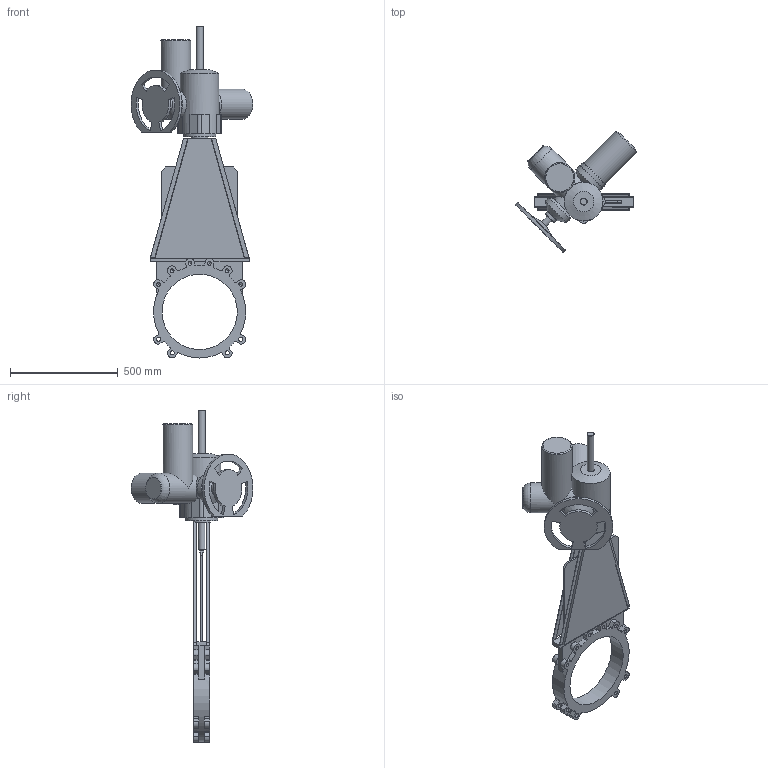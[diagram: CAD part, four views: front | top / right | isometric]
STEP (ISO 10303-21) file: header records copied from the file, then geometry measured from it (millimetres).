
FILE_DESCRIPTION(('STEP AP203'), '1');
FILE_NAME('K51GVA_DN350+MT903.A 30', '', ('UNSPECIFIED'), ('UNSPECIFIED'), 'ASCON STEP Converter 1.6', 'ASCON Math Kernel', '');
FILE_SCHEMA(('CONFIG_CONTROL_DESIGN'));
Length unit declared in the file: millimetre
Bounding box: 565.84 x 565.84 x 1543.5 mm (x, y, z)
Volume: 28856306.8 mm3; surface area: 2271555.4 mm2
Topology: 1 solids, 1 shells, 360 faces, 1000 edges, 648 vertices
Faces by surface type: plane 192, cylinder 141, cone 26, torus 1
Full cylindrical faces by diameter (mm): 10.106 x4, 14 x8, 17.294 x12, 19.294 x8, 32 x3, 60 x1, 80 x1, 100 x1, 140 x4, 147 x1, 150 x1, 151 x1, 350 x1
Entity records: 15128 total; most frequent: CARTESIAN_POINT 3082, DIRECTION 1955, ORIENTED_EDGE 1824, EDGE_CURVE 912, AXIS2_PLACEMENT_3D 715, VERTEX_POINT 632, LINE 525, VECTOR 525
